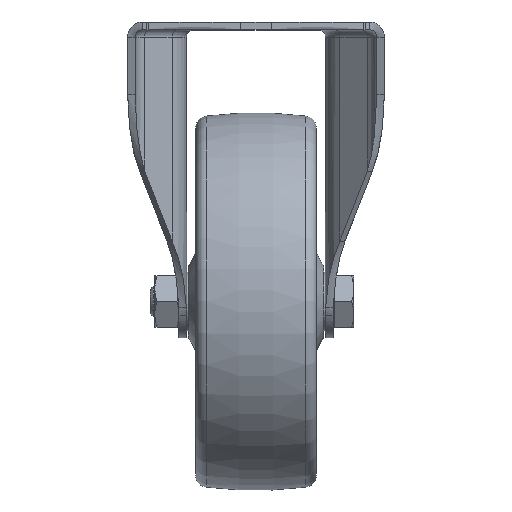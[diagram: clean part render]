
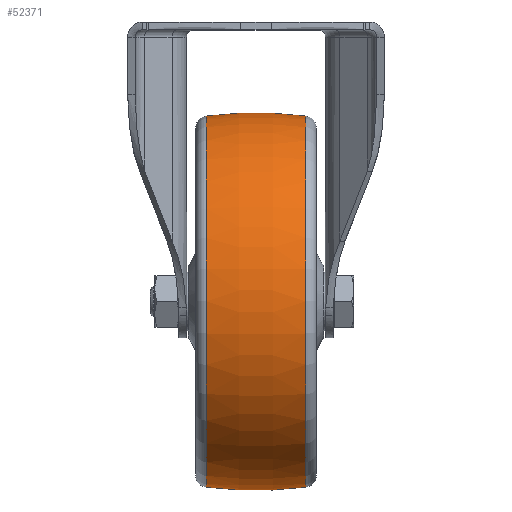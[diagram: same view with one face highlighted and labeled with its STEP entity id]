
A CAD part, top view. The second image highlights one B-rep face of the part: STEP entity #52371.
In plain terms, the highlighted toroidal (fillet/blend) face has major radius 67.5 mm and minor radius 130 mm.
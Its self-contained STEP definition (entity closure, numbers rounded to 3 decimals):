
#653 = CARTESIAN_POINT ( 'NONE',  ( 16.508, -61.448, 0. ) ) ;
#1000 = CARTESIAN_POINT ( 'NONE',  ( -16.508, 0., 0. ) ) ;
#1594 = DIRECTION ( 'NONE',  ( 0., 0., -1. ) ) ;
#5142 = ORIENTED_EDGE ( 'NONE', *, *, #14447, .T. ) ;
#6177 = CARTESIAN_POINT ( 'NONE',  ( 16.508, 61.448, 0. ) ) ;
#8378 = DIRECTION ( 'NONE',  ( 0.127, -0.992, 0. ) ) ;
#9060 = DIRECTION ( 'NONE',  ( 0., -1., 0. ) ) ;
#11229 = AXIS2_PLACEMENT_3D ( 'NONE', #23511, #29525, #71773 ) ;
#11304 = EDGE_CURVE ( 'NONE', #62312, #46899, #58858, .T. ) ;
#13839 = AXIS2_PLACEMENT_3D ( 'NONE', #1000, #42950, #30972 ) ;
#14447 = EDGE_CURVE ( 'NONE', #63818, #65370, #64385, .T. ) ;
#15256 = EDGE_LOOP ( 'NONE', ( #36019, #51226, #34365, #5142 ) ) ;
#15673 = CARTESIAN_POINT ( 'NONE',  ( 16.508, 0., 0. ) ) ;
#16584 = DIRECTION ( 'NONE',  ( -1., 0., 0. ) ) ;
#19864 = EDGE_CURVE ( 'NONE', #63818, #62312, #46352, .T. ) ;
#22416 = AXIS2_PLACEMENT_3D ( 'NONE', #15673, #39187, #9060 ) ;
#23511 = CARTESIAN_POINT ( 'NONE',  ( 0., -67.5, 0. ) ) ;
#24499 = AXIS2_PLACEMENT_3D ( 'NONE', #41425, #16584, #58831 ) ;
#29094 = AXIS2_PLACEMENT_3D ( 'NONE', #55931, #1594, #8378 ) ;
#29525 = DIRECTION ( 'NONE',  ( 0., 0., 1. ) ) ;
#30972 = DIRECTION ( 'NONE',  ( 0., -1., 0. ) ) ;
#33513 = CIRCLE ( 'NONE', #13839, 61.448 ) ;
#33974 = CARTESIAN_POINT ( 'NONE',  ( -16.508, -61.448, 0. ) ) ;
#34365 = ORIENTED_EDGE ( 'NONE', *, *, #19864, .F. ) ;
#36019 = ORIENTED_EDGE ( 'NONE', *, *, #45011, .T. ) ;
#39187 = DIRECTION ( 'NONE',  ( 1., 0., 0. ) ) ;
#40534 = CARTESIAN_POINT ( 'NONE',  ( -16.508, 61.448, 0. ) ) ;
#40660 = TOROIDAL_SURFACE ( 'NONE', #24499, -67.5, 130. ) ;
#41425 = CARTESIAN_POINT ( 'NONE',  ( 0., 0., 0. ) ) ;
#42950 = DIRECTION ( 'NONE',  ( 1., 0., 0. ) ) ;
#45011 = EDGE_CURVE ( 'NONE', #65370, #46899, #33513, .T. ) ;
#46352 = CIRCLE ( 'NONE', #22416, 61.448 ) ;
#46899 = VERTEX_POINT ( 'NONE', #40534 ) ;
#51226 = ORIENTED_EDGE ( 'NONE', *, *, #11304, .F. ) ;
#52371 = ADVANCED_FACE ( 'NONE', ( #61319 ), #40660, .T. ) ;
#55931 = CARTESIAN_POINT ( 'NONE',  ( 0., 67.5, 0. ) ) ;
#58831 = DIRECTION ( 'NONE',  ( 0., -1., 0. ) ) ;
#58858 = CIRCLE ( 'NONE', #11229, 130. ) ;
#61319 = FACE_OUTER_BOUND ( 'NONE', #15256, .T. ) ;
#62312 = VERTEX_POINT ( 'NONE', #6177 ) ;
#63818 = VERTEX_POINT ( 'NONE', #653 ) ;
#64385 = CIRCLE ( 'NONE', #29094, 130. ) ;
#65370 = VERTEX_POINT ( 'NONE', #33974 ) ;
#71773 = DIRECTION ( 'NONE',  ( 0.127, 0.992, 0. ) ) ;
